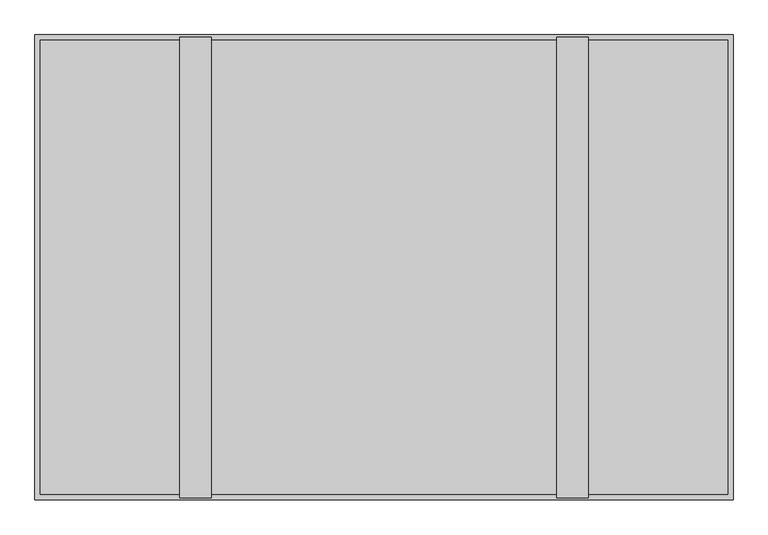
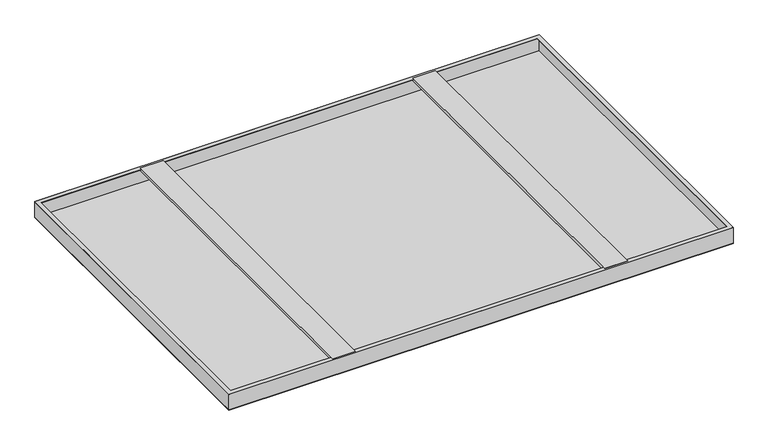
"""IFC4 building model written with IfcOpenShell, lengths in millimetres: proxy geometry, durlum_dur_SOLO_TYPE1 : durlum_dur_SOLO_TYPE1."""

from ifc_helpers import new_model, si_unit, frame, origin, origin_with_axes, place, context, project, spatial, polyline, outline, extrude, source, transform, mapped, element, save


def generic_models_85b4ffa8(model_context):
    return source(origin(), model_context, "Body", "SweptSolid", [
        extrude(outline(polyline([(50.0, 371.1818895), (41.2547795, 371.1818895), (41.2547795, 373.7012938), (47.2031398, 373.7012938), (47.2031398, 436.2987062), (41.2547795, 436.2987062), (41.2547795, 438.8181105), (50.0, 438.8181105), (50.0, 371.1818895)])), frame((0.0, -495.0, 0.0), z_axis=(0.0, 1.0, 0.0), x_axis=(0.0, 0.0, 1.0)), (0.0, 0.0, 1.0), 990.0),
        extrude(outline(polyline([(50.0, -438.8181105), (41.2547795, -438.8181105), (41.2547795, -436.2987062), (47.2031398, -436.2987062), (47.2031398, -373.7012938), (41.2547795, -373.7012938), (41.2547795, -371.1818895), (50.0, -371.1818895), (50.0, -438.8181105)])), frame((0.0, -495.0, 0.0), z_axis=(0.0, 1.0, 0.0), x_axis=(0.0, 0.0, 1.0)), (0.0, 0.0, 1.0), 990.0),
        extrude(outline(polyline([(750.0, 500.0), (750.0, -500.0), (-750.0, -500.0), (-750.0, 500.0), (750.0, 500.0)]), holes=[polyline([(-738.0, 488.0), (-738.0, -488.0), (738.0, -488.0), (738.0, 488.0), (-738.0, 488.0)])]), frame((0.0, 0.0, 49.4), z_axis=(0.0, 0.0, 1.0), x_axis=(1.0, 0.0, 0.0)), (0.0, 0.0, 1.0), 0.6),
        extrude(outline(polyline([(750.0, 500.0), (750.0, -500.0), (-750.0, -500.0), (-750.0, 500.0), (750.0, 500.0)]), holes=[polyline([(749.4, 499.4), (-749.4, 499.4), (-749.4, -499.4), (749.4, -499.4), (749.4, 499.4)])]), frame((0.0, 0.0, 0.6), z_axis=(0.0, 0.0, 1.0), x_axis=(1.0, 0.0, 0.0)), (0.0, 0.0, 1.0), 49.4),
        extrude(outline(polyline([(750.0, 500.0), (750.0, -500.0), (-750.0, -500.0), (-750.0, 500.0), (750.0, 500.0)]), holes=[polyline([(749.4, 499.4), (-749.4, 499.4), (-749.4, -499.4), (749.4, -499.4), (749.4, 499.4)])]), origin_with_axes(), (0.0, 0.0, 1.0), 0.6),
        extrude(outline(polyline([(749.4, 499.4), (749.4, -499.4), (-749.4, -499.4), (-749.4, 499.4), (749.4, 499.4)])), origin_with_axes(), (0.0, 0.0, 1.0), 0.6),
    ])


if __name__ == "__main__":
    model = new_model("IFC4")
    model_context = context("Model", 3, world=origin())
    ifc_project = project(units=[si_unit("LENGTHUNIT", "METRE", prefix="MILLI")], contexts=[model_context])
    site = spatial("IfcSite", under=ifc_project)
    building = spatial("IfcBuilding", under=site)
    placement = place(None, origin())
    generic_models_shape = generic_models_85b4ffa8(model_context)
    element("IfcBuildingElementProxy", 1, Name="durlum_dur_SOLO_TYPE1 : durlum_dur_SOLO_TYPE1", ObjectType="durlum_dur_SOLO_TYPE1 : durlum_dur_SOLO_TYPE1", at=placement, inside=building, context=model_context, shape_type="MappedRepresentation", body=[
        mapped(generic_models_shape, transform((0.0, 0.0, 0.0), x_axis=(1.0, 0.0, 0.0), y_axis=(0.0, 1.0, 0.0), z_axis=(0.0, 0.0, 1.0))),
    ])
    save(model, "model.ifc")
